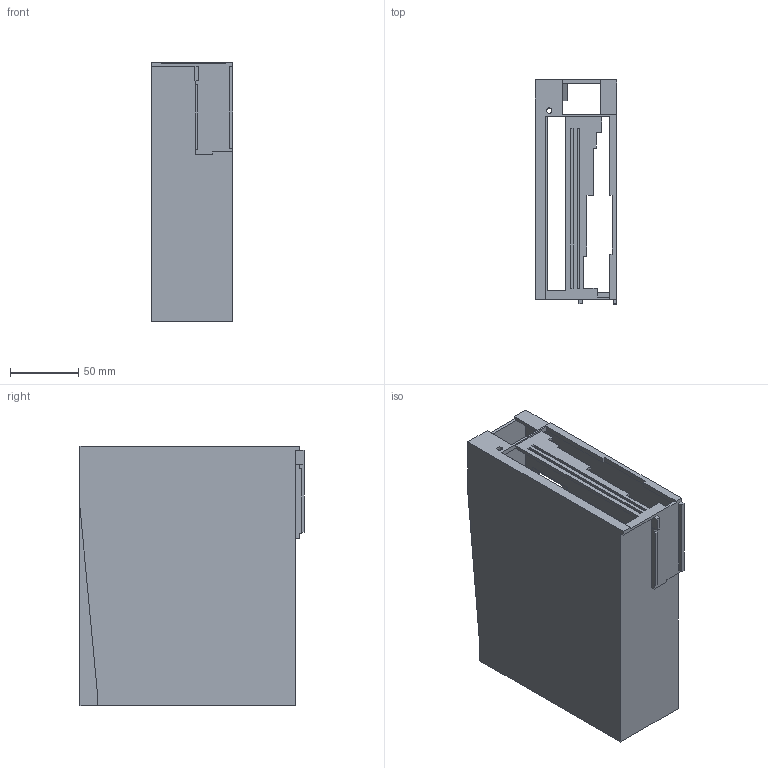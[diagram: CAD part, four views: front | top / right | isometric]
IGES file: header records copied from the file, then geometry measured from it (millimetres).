
Start section:  PTC IGES file: j4-60-100gf4rj-case.igs
Global section: file name: j4-60-100gf4rj-case.igs; native system: Creo Parametric by Parametric Technology Corporation; preprocessor: 2014310; author: ZZ86203; organization: Unknown; date: 20151022.125234; units: millimetre
Bounding box: 60 x 164 x 190.2 mm (x, y, z)
Volume: 218053.8 mm3; surface area: 174476 mm2
Topology: 1 solids, 1 shells, 96 faces, 288 edges, 191 vertices
Faces by surface type: bspline 96
